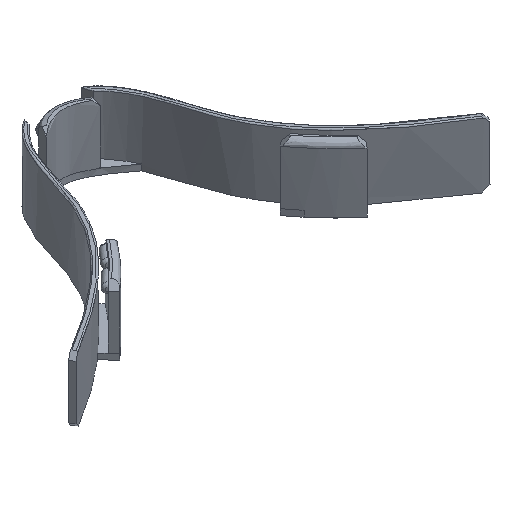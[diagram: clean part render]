
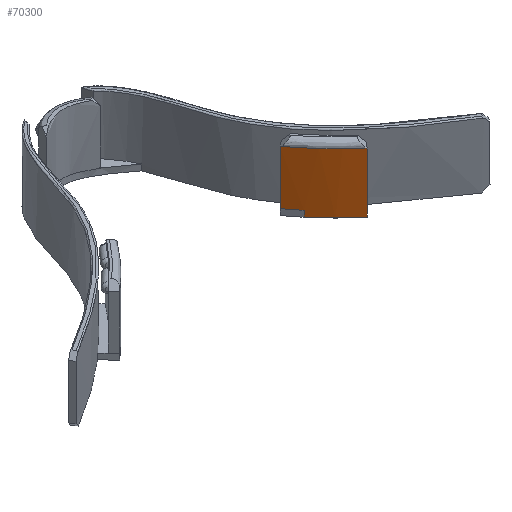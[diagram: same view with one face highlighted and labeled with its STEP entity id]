
A CAD part, isometric view. The second image highlights one B-rep face of the part: STEP entity #70300.
In plain terms, the highlighted free-form (B-spline) face has degree [2, 1] with [3, 2] control points.
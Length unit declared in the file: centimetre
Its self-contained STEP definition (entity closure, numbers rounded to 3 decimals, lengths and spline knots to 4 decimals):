
#6370 = CARTESIAN_POINT ('', (20.6411, 8.746, 0.));
#6380 = VERTEX_POINT ('', #6370);
#6460 = CARTESIAN_POINT ('', (15.397, 14.0188, 0.));
#6470 = VERTEX_POINT ('', #6460);
#6890 = CARTESIAN_POINT ('', (13.6484, 16.2435, 9.8844));
#6900 = VERTEX_POINT ('', #6890);
#7180 = CARTESIAN_POINT ('', (13.6484, 16.2435, 1.));
#7190 = VERTEX_POINT ('', #7180);
#7250 = CARTESIAN_POINT ('', (13.6484, 16.2435, 1.));
#7260 = CARTESIAN_POINT ('', (13.6484, 16.2435, 9.8844));
#7270 = (
   BOUNDED_CURVE ()
   B_SPLINE_CURVE (1, (#7250, #7260), .UNSPECIFIED., .F., .U.)
   B_SPLINE_CURVE_WITH_KNOTS ((2, 2), (0.0909, 0.8986), .UNSPECIFIED.)
   CURVE ()
   GEOMETRIC_REPRESENTATION_ITEM ()
   RATIONAL_B_SPLINE_CURVE ((1., 1.))
   REPRESENTATION_ITEM ('')
);
#7280 = EDGE_CURVE ('', #7190, #6900, #7270, .T.);
#24530 = CARTESIAN_POINT ('', (15.3969, 14.0189, 0.9998));
#24540 = VERTEX_POINT ('', #24530);
#24550 = CARTESIAN_POINT ('', (15.3968, 14.0189, 0.9999));
#24560 = CARTESIAN_POINT ('', (14.7906, 14.7412, 0.9999));
#24570 = CARTESIAN_POINT ('', (14.208, 15.4825, 0.9999));
#24580 = CARTESIAN_POINT ('', (13.6484, 16.2435, 1.));
#24590 = B_SPLINE_CURVE_WITH_KNOTS ('', 3, (#24550, #24560, #24570, #24580), .UNSPECIFIED., .F., .U., (4, 4), (7.4336, 10.2674), .UNSPECIFIED.);
#24600 = EDGE_CURVE ('', #24540, #7190, #24590, .T.);
#24640 = CARTESIAN_POINT ('', (15.3969, 14.0189, 0.9998));
#24650 = CARTESIAN_POINT ('', (15.3969, 14.0189, 0.6665));
#24660 = CARTESIAN_POINT ('', (15.397, 14.0188, 0.3333));
#24670 = CARTESIAN_POINT ('', (15.397, 14.0188, 0.));
#24680 = B_SPLINE_CURVE_WITH_KNOTS ('', 3, (#24640, #24650, #24660, #24670), .UNSPECIFIED., .F., .U., (4, 4), (0., 0.9998), .UNSPECIFIED.);
#24690 = EDGE_CURVE ('', #24540, #6470, #24680, .T.);
#24830 = CARTESIAN_POINT ('', (15.397, 14.0188, 0.));
#24840 = CARTESIAN_POINT ('', (17.7959, 11.1605, 0.));
#24850 = CARTESIAN_POINT ('', (20.6411, 8.746, 0.));
#24860 = (
   BOUNDED_CURVE ()
   B_SPLINE_CURVE (2, (#24830, #24840, #24850), .UNSPECIFIED., .F., .U.)
   B_SPLINE_CURVE_WITH_KNOTS ((3, 3), (1.2756, 2.), .UNSPECIFIED.)
   CURVE ()
   GEOMETRIC_REPRESENTATION_ITEM ()
   RATIONAL_B_SPLINE_CURVE ((0.997, 0.995, 1.))
   REPRESENTATION_ITEM ('')
);
#24870 = EDGE_CURVE ('', #6470, #6380, #24860, .T.);
#24990 = CARTESIAN_POINT ('', (20.6411, 8.746, 0.9997));
#25000 = VERTEX_POINT ('', #24990);
#25060 = CARTESIAN_POINT ('', (20.6411, 8.746, 0.));
#25070 = CARTESIAN_POINT ('', (20.6411, 8.746, 0.9997));
#25080 = B_SPLINE_CURVE_WITH_KNOTS ('', 1, (#25060, #25070), .UNSPECIFIED., .F., .U., (2, 2), (0., 0.0909), .UNSPECIFIED.);
#25090 = EDGE_CURVE ('', #6380, #25000, #25080, .T.);
#67900 = CARTESIAN_POINT ('', (13.7172, 16.1502, 10.));
#67910 = VERTEX_POINT ('', #67900);
#67920 = CARTESIAN_POINT ('', (13.7172, 16.1502, 10.));
#67930 = CARTESIAN_POINT ('', (13.6942, 16.1813, 9.9615));
#67940 = CARTESIAN_POINT ('', (13.6713, 16.2124, 9.923));
#67950 = CARTESIAN_POINT ('', (13.6484, 16.2435, 9.8844));
#67960 = B_SPLINE_CURVE_WITH_KNOTS ('', 3, (#67920, #67930, #67940, #67950), .UNSPECIFIED., .F., .U., (4, 4), (0., 0.1637), .UNSPECIFIED.);
#67970 = EDGE_CURVE ('', #67910, #6900, #67960, .T.);
#68490 = CARTESIAN_POINT ('', (20.5499, 8.8236, 10.));
#68500 = VERTEX_POINT ('', #68490);
#68980 = CARTESIAN_POINT ('', (13.7172, 16.1502, 10.));
#68990 = CARTESIAN_POINT ('', (16.7146, 12.0963, 10.));
#69000 = CARTESIAN_POINT ('', (20.5499, 8.8236, 10.));
#69010 = (
   BOUNDED_CURVE ()
   B_SPLINE_CURVE (2, (#68980, #68990, #69000), .UNSPECIFIED., .F., .U.)
   B_SPLINE_CURVE_WITH_KNOTS ((3, 3), (0.4659, 0.5341), .UNSPECIFIED.)
   CURVE ()
   GEOMETRIC_REPRESENTATION_ITEM ()
   RATIONAL_B_SPLINE_CURVE ((0.931, 0.925, 0.931))
   REPRESENTATION_ITEM ('')
);
#69020 = EDGE_CURVE ('', #67910, #68500, #69010, .T.);
#69840 = CARTESIAN_POINT ('', (20.6411, 8.746, 9.8806));
#69850 = VERTEX_POINT ('', #69840);
#69910 = CARTESIAN_POINT ('', (20.6411, 8.746, 0.9997));
#69920 = CARTESIAN_POINT ('', (20.6411, 8.746, 9.8806));
#69930 = B_SPLINE_CURVE_WITH_KNOTS ('', 1, (#69910, #69920), .UNSPECIFIED., .F., .U., (2, 2), (0.0909, 0.8982), .UNSPECIFIED.);
#69940 = EDGE_CURVE ('', #25000, #69850, #69930, .T.);
#70060 = CARTESIAN_POINT ('', (20.6411, 8.746, 9.8806));
#70070 = CARTESIAN_POINT ('', (20.6107, 8.7718, 9.9204));
#70080 = CARTESIAN_POINT ('', (20.5803, 8.7977, 9.9602));
#70090 = CARTESIAN_POINT ('', (20.5499, 8.8236, 10.));
#70100 = B_SPLINE_CURVE_WITH_KNOTS ('', 3, (#70060, #70070, #70080, #70090), .UNSPECIFIED., .F., .U., (4, 4), (0., 0.1692), .UNSPECIFIED.);
#70110 = EDGE_CURVE ('', #69850, #68500, #70100, .T.);
#70120 = ORIENTED_EDGE ('', *, *, #70110, .T.);
#70130 = ORIENTED_EDGE ('', *, *, #69020, .F.);
#70140 = ORIENTED_EDGE ('', *, *, #67970, .T.);
#70150 = ORIENTED_EDGE ('', *, *, #7280, .F.);
#70160 = ORIENTED_EDGE ('', *, *, #24600, .F.);
#70170 = ORIENTED_EDGE ('', *, *, #24690, .T.);
#70180 = ORIENTED_EDGE ('', *, *, #24870, .T.);
#70190 = ORIENTED_EDGE ('', *, *, #25090, .T.);
#70200 = ORIENTED_EDGE ('', *, *, #69940, .T.);
#70210 = EDGE_LOOP ('', (#70120, #70130, #70140, #70150, #70160, #70170, #70180, #70190, #70200));
#70220 = FACE_OUTER_BOUND ('', #70210, .T.);
#70230 = CARTESIAN_POINT ('', (13.6484, 16.2435, 0.));
#70240 = CARTESIAN_POINT ('', (13.6484, 16.2435, 11.));
#70250 = CARTESIAN_POINT ('', (16.7059, 12.0855, 0.));
#70260 = CARTESIAN_POINT ('', (16.7059, 12.0855, 11.));
#70270 = CARTESIAN_POINT ('', (20.6411, 8.746, 0.));
#70280 = CARTESIAN_POINT ('', (20.6411, 8.746, 11.));
#70290 = (
   BOUNDED_SURFACE ()
   B_SPLINE_SURFACE (2, 1, ((#70230, #70240), (#70250, #70260), (#70270, #70280)), .UNSPECIFIED., .F., .F., .U.)
   B_SPLINE_SURFACE_WITH_KNOTS ((3, 3), (2, 2), (1., 2.), (0., 1.), .UNSPECIFIED.)
   SURFACE ()
   GEOMETRIC_REPRESENTATION_ITEM ()
   RATIONAL_B_SPLINE_SURFACE (((1., 1.), (0.993, 0.993), (1., 1.)))
   REPRESENTATION_ITEM ('')
);
#70300 = ADVANCED_FACE ('', (#70220), #70290, .T.);
